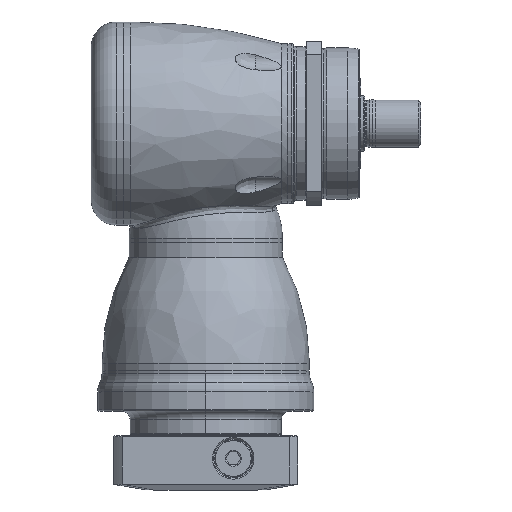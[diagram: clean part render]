
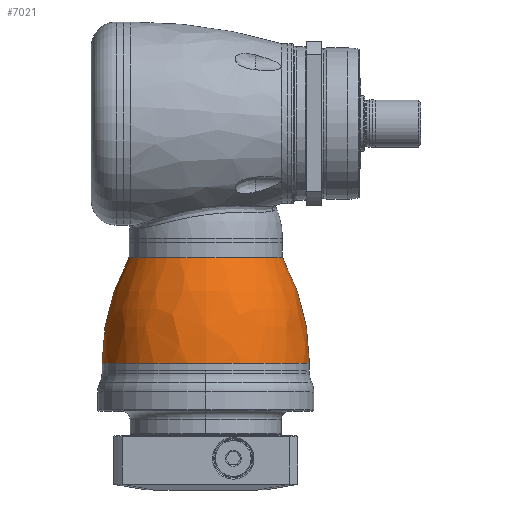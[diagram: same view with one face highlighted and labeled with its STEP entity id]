
A CAD part, top view. The second image highlights one B-rep face of the part: STEP entity #7021.
In plain terms, the highlighted free-form (B-spline) face has degree [3, 3] with [7, 4] control points.
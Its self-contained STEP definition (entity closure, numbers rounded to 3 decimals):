
#6850=CARTESIAN_POINT('',(-3.5,0.,0.));
#6851=DIRECTION('',(1.,0.,0.));
#6852=DIRECTION('',(0.,1.,0.));
#6853=AXIS2_PLACEMENT_3D('',#6850,#6851,#6852);
#6860=CARTESIAN_POINT('',(-52.388,0.,0.));
#6861=DIRECTION('',(-1.,0.,0.));
#6862=DIRECTION('',(0.,-1.,0.));
#6863=AXIS2_PLACEMENT_3D('',#6860,#6861,#6862);
#6865=CARTESIAN_POINT('',(-3.5,-54.29,0.));
#6866=DIRECTION('',(0.,0.,-1.));
#6867=DIRECTION('',(-0.478,0.878,0.));
#6868=AXIS2_PLACEMENT_3D('',#6865,#6866,#6867);
#6870=CARTESIAN_POINT('',(-3.5,54.29,0.));
#6871=DIRECTION('',(0.,0.,1.));
#6872=DIRECTION('',(-0.478,-0.878,0.));
#6873=AXIS2_PLACEMENT_3D('',#6870,#6871,#6872);
#6940=CARTESIAN_POINT('',(-3.5,48.,0.));
#6941=CARTESIAN_POINT('',(-3.5,-48.,0.));
#6942=VERTEX_POINT('',#6940);
#6943=VERTEX_POINT('',#6941);
#6948=CARTESIAN_POINT('',(-52.388,35.561,0.));
#6949=CARTESIAN_POINT('',(-52.388,-35.561,0.));
#6950=VERTEX_POINT('',#6948);
#6951=VERTEX_POINT('',#6949);
#6983=CARTESIAN_POINT('',(-2.481,-47.9,
-3.014));
#6984=CARTESIAN_POINT('',(-20.351,-48.078,
-3.025));
#6985=CARTESIAN_POINT('',(-37.67,-43.68,
-2.748));
#6986=CARTESIAN_POINT('',(-53.281,-35.,
-2.202));
#6987=CARTESIAN_POINT('',(-2.481,-49.755,
26.464));
#6988=CARTESIAN_POINT('',(-20.351,-49.939,
26.562));
#6989=CARTESIAN_POINT('',(-37.67,-45.371,
24.132));
#6990=CARTESIAN_POINT('',(-53.281,-36.355,
19.337));
#6991=CARTESIAN_POINT('',(-2.481,-29.536,
47.995));
#6992=CARTESIAN_POINT('',(-20.351,-29.646,
48.173));
#6993=CARTESIAN_POINT('',(-37.67,-26.934,
43.766));
#6994=CARTESIAN_POINT('',(-53.281,-21.581,
35.069));
#6995=CARTESIAN_POINT('',(-2.481,0.,
47.995));
#6996=CARTESIAN_POINT('',(-20.351,0.,
48.173));
#6997=CARTESIAN_POINT('',(-37.67,0.,
43.766));
#6998=CARTESIAN_POINT('',(-53.281,0.,
35.069));
#6999=CARTESIAN_POINT('',(-2.481,29.536,47.995));
#7000=CARTESIAN_POINT('',(-20.351,29.646,48.173));
#7001=CARTESIAN_POINT('',(-37.67,26.934,43.766));
#7002=CARTESIAN_POINT('',(-53.281,21.581,35.069));
#7003=CARTESIAN_POINT('',(-2.481,49.755,26.464));
#7004=CARTESIAN_POINT('',(-20.351,49.939,26.562));
#7005=CARTESIAN_POINT('',(-37.67,45.371,24.132));
#7006=CARTESIAN_POINT('',(-53.281,36.355,19.337));
#7007=CARTESIAN_POINT('',(-2.481,47.9,
-3.014));
#7008=CARTESIAN_POINT('',(-20.351,48.078,
-3.025));
#7009=CARTESIAN_POINT('',(-37.67,43.68,
-2.748));
#7010=CARTESIAN_POINT('',(-53.281,35.,
-2.202));
#7011=(BOUNDED_SURFACE()B_SPLINE_SURFACE(3,3,((#6983,#6984,#6985,#6986),(#6987,
#6988,#6989,#6990),(#6991,#6992,#6993,#6994),(#6995,#6996,#6997,#6998),(#6999,
#7000,#7001,#7002),(#7003,#7004,#7005,#7006),(#7007,#7008,#7009,#7010)),
.UNSPECIFIED.,.F.,.F.,.F.)B_SPLINE_SURFACE_WITH_KNOTS((4,3,4),(4,4),(0.,1.,
2.),(0.,1.),.UNSPECIFIED.)GEOMETRIC_REPRESENTATION_ITEM()RATIONAL_B_SPLINE_SURFACE(((1.207,1.181,1.181,1.207),(
0.953,0.932,0.932,0.953),(
0.953,0.932,0.932,0.953),(
1.207,1.181,1.181,1.207),(
0.953,0.932,0.932,0.953),(
0.953,0.932,0.932,0.953),(
1.207,1.181,1.181,1.207)))REPRESENTATION_ITEM('')SURFACE());
#7013=ORIENTED_EDGE('',*,*,#7012,.T.);
#7015=ORIENTED_EDGE('',*,*,#7014,.T.);
#7016=ORIENTED_EDGE('',*,*,#6973,.T.);
#7018=ORIENTED_EDGE('',*,*,#7017,.F.);
#7019=EDGE_LOOP('',(#7013,#7015,#7016,#7018));
#7020=FACE_OUTER_BOUND('',#7019,.F.);
#7021=ADVANCED_FACE('',(#7020),#7011,.T.);
#6854=CIRCLE('',#6853,48.);
#6864=CIRCLE('',#6863,35.561);
#6869=CIRCLE('',#6868,102.29);
#6874=CIRCLE('',#6873,102.29);
#6973=EDGE_CURVE('',#6942,#6943,#6854,.T.);
#7012=EDGE_CURVE('',#6951,#6950,#6864,.T.);
#7014=EDGE_CURVE('',#6950,#6942,#6869,.T.);
#7017=EDGE_CURVE('',#6951,#6943,#6874,.T.);
